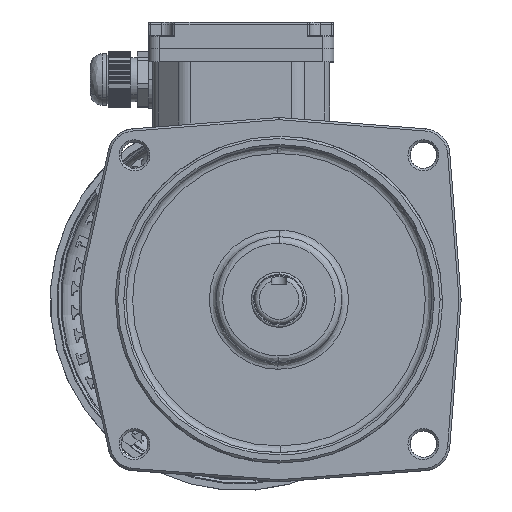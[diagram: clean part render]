
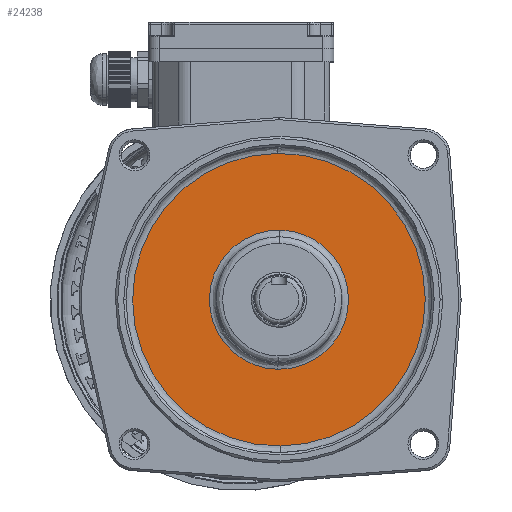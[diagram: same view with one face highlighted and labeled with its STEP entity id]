
A CAD part, top view. The second image highlights one B-rep face of the part: STEP entity #24238.
In plain terms, the highlighted planar face has unit normal (0, 0, 1).
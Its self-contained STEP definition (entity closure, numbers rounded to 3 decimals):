
#215 = CARTESIAN_POINT ( 'NONE',  ( -0.254, 8.888, 232.692 ) ) ;
#1474 = AXIS2_PLACEMENT_3D ( 'NONE', #215, #26114, #51989 ) ;
#2553 = CARTESIAN_POINT ( 'NONE',  ( -0.254, 8.888, 232.692 ) ) ;
#4658 = AXIS2_PLACEMENT_3D ( 'NONE', #2553, #28470, #54352 ) ;
#4706 = FACE_OUTER_BOUND ( 'NONE', #57112, .T. ) ;
#5798 = VERTEX_POINT ( 'NONE', #29865 ) ;
#11504 = EDGE_CURVE ( 'NONE', #45443, #62039, #38094, .T. ) ;
#11630 = CARTESIAN_POINT ( 'NONE',  ( -0.823, 75.136, 232.692 ) ) ;
#13594 = EDGE_CURVE ( 'NONE', #62039, #45443, #60568, .T. ) ;
#14189 = EDGE_CURVE ( 'NONE', #19068, #5798, #73740, .T. ) ;
#19068 = VERTEX_POINT ( 'NONE', #11630 ) ;
#24238 = ADVANCED_FACE ( 'NONE', ( #4706, #30624 ), #56514, .T. ) ;
#24274 = DIRECTION ( 'NONE',  ( 0., 0., 1. ) ) ;
#25814 = CARTESIAN_POINT ( 'NONE',  ( -0.254, 8.888, 232.692 ) ) ;
#26114 = DIRECTION ( 'NONE',  ( 0., 0., 1. ) ) ;
#26616 = EDGE_CURVE ( 'NONE', #5798, #19068, #41252, .T. ) ;
#28470 = DIRECTION ( 'NONE',  ( 0., 0., -1. ) ) ;
#29865 = CARTESIAN_POINT ( 'NONE',  ( 0.316, -57.359, 232.692 ) ) ;
#30624 = FACE_BOUND ( 'NONE', #62053, .T. ) ;
#34329 = DIRECTION ( 'NONE',  ( 0., 0., 1. ) ) ;
#37196 = AXIS2_PLACEMENT_3D ( 'NONE', #25814, #51689, #77563 ) ;
#38094 = CIRCLE ( 'NONE', #1474, 31.5 ) ;
#41252 = CIRCLE ( 'NONE', #4658, 66.25 ) ;
#45443 = VERTEX_POINT ( 'NONE', #69151 ) ;
#48327 = ORIENTED_EDGE ( 'NONE', *, *, #14189, .F. ) ;
#50160 = DIRECTION ( 'NONE',  ( 1., 0., 0. ) ) ;
#51689 = DIRECTION ( 'NONE',  ( 0., 0., -1. ) ) ;
#51989 = DIRECTION ( 'NONE',  ( 0., 1., 0. ) ) ;
#54352 = DIRECTION ( 'NONE',  ( 0., -1., 0. ) ) ;
#54793 = CARTESIAN_POINT ( 'NONE',  ( 0.209, 40.385, 232.692 ) ) ;
#56514 = PLANE ( 'NONE',  #71032 ) ;
#57112 = EDGE_LOOP ( 'NONE', ( #48327, #72316 ) ) ;
#58067 = ORIENTED_EDGE ( 'NONE', *, *, #11504, .F. ) ;
#60235 = DIRECTION ( 'NONE',  ( 0., 1., 0. ) ) ;
#60568 = CIRCLE ( 'NONE', #71420, 31.5 ) ;
#62039 = VERTEX_POINT ( 'NONE', #54793 ) ;
#62053 = EDGE_LOOP ( 'NONE', ( #75389, #58067 ) ) ;
#69151 = CARTESIAN_POINT ( 'NONE',  ( -0.717, -22.608, 232.692 ) ) ;
#71032 = AXIS2_PLACEMENT_3D ( 'NONE', #82421, #24274, #50160 ) ;
#71420 = AXIS2_PLACEMENT_3D ( 'NONE', #72974, #34329, #60235 ) ;
#72316 = ORIENTED_EDGE ( 'NONE', *, *, #26616, .F. ) ;
#72974 = CARTESIAN_POINT ( 'NONE',  ( -0.254, 8.888, 232.692 ) ) ;
#73740 = CIRCLE ( 'NONE', #37196, 66.25 ) ;
#75389 = ORIENTED_EDGE ( 'NONE', *, *, #13594, .F. ) ;
#77563 = DIRECTION ( 'NONE',  ( 0., -1., 0. ) ) ;
#82421 = CARTESIAN_POINT ( 'NONE',  ( -0.254, 8.888, 232.692 ) ) ;
